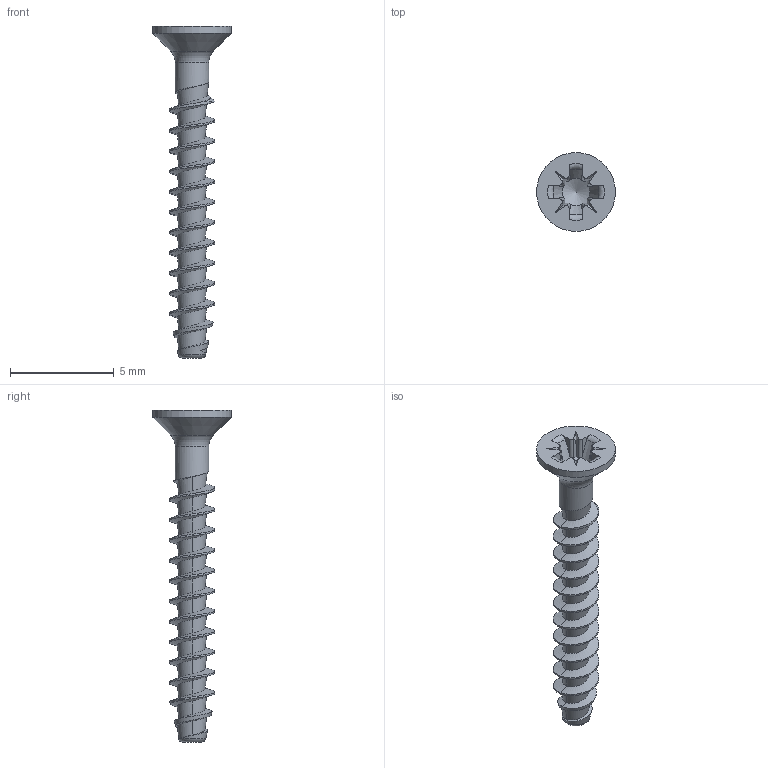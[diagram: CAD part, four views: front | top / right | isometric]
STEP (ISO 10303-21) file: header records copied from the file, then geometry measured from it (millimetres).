
FILE_DESCRIPTION(/* description */ (''),/* implementation_level */ '2;1');
FILE_NAME(/* name */ 'KN1033-STS-Neu-22x16-Z1.step',/* time_stamp */ '2017-10-20T11:31:11+02:00',/* author */ (''),/* organization */ (''),/* preprocessor_version */ 'ST-DEVELOPER v16',/* originating_system */ 'SIEMENS PLM Software NX 10.0',/* authorisation */ '');
FILE_SCHEMA (('AUTOMOTIVE_DESIGN { 1 0 10303 214 3 1 1 1 }'));
Length unit declared in the file: millimetre
Products named in the file (1): KN1033-STS-Neu-22x16-Z1
Bounding box: 3.8 x 3.8 x 16 mm (x, y, z)
Volume: 35.1 mm3; surface area: 148.1 mm2
Topology: 1 solids, 1 shells, 94 faces, 243 edges, 151 vertices
Faces by surface type: bspline 42, plane 26, cylinder 12, cone 8, torus 6
Full cylindrical faces by diameter (mm): 1.62 x1, 3.8 x1
Entity records: 5536 total; most frequent: CARTESIAN_POINT 3623, ORIENTED_EDGE 460, DIRECTION 257, EDGE_CURVE 230, VERTEX_POINT 146, B_SPLINE_CURVE_WITH_KNOTS 106, EDGE_LOOP 99, LINE 95
